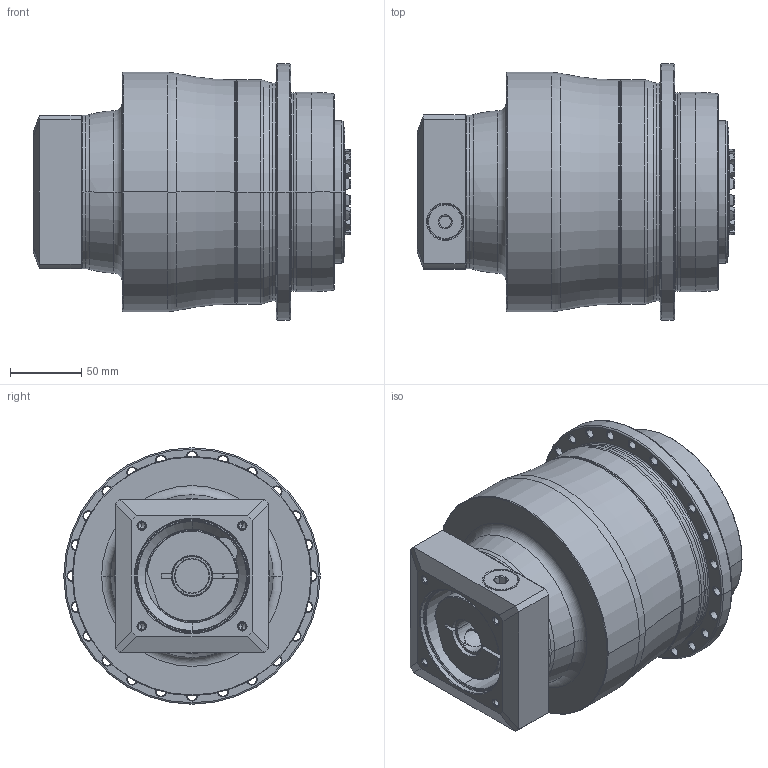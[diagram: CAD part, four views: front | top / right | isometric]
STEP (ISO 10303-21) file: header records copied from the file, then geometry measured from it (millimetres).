
FILE_DESCRIPTION((''),'2;1');
FILE_NAME('APC140_3ST_24-P0409510201_ASM','2018-07-03T',('d01226'),(''),'PRO/ENGINEER BY PARAMETRIC TECHNOLOGY CORPORATION, 2008410','PRO/ENGINEER BY PARAMETRIC TECHNOLOGY CORPORATION, 2008410','');
FILE_SCHEMA(('CONFIG_CONTROL_DESIGN'));
Length unit declared in the file: millimetre
Products named in the file (9): P0278501003; P03595D0103; P1366500201; P0503500010; P0912303001; P1211500001; P0409510201; 21711418017; APC140_3ST_24-P0409510201_ASM
Assembly tree (8 placements, depth 2):
  APC140_3ST_24-P0409510201_ASM
    P0278501003
    P03595D0103
    P1366500201
    P0503500010
    P0912303001
    P1211500001
    P0409510201
    21711418017
Bounding box: 222.6 x 180 x 180 mm (x, y, z)
Volume: 3627521.1 mm3; surface area: 312624.5 mm2
Topology: 9 solids, 19 shells, 673 faces, 1624 edges, 989 vertices
Faces by surface type: cone 223, cylinder 207, plane 121, torus 106, bspline 16
Entity records: 25251 total; most frequent: CARTESIAN_POINT 9142, DIRECTION 3599, ORIENTED_EDGE 3170, EDGE_CURVE 1606, AXIS2_PLACEMENT_3D 1564, VERTEX_POINT 989, CIRCLE 880, EDGE_LOOP 773
